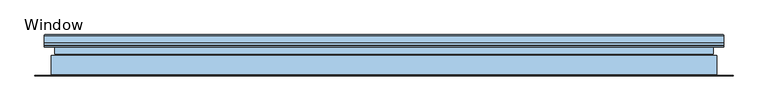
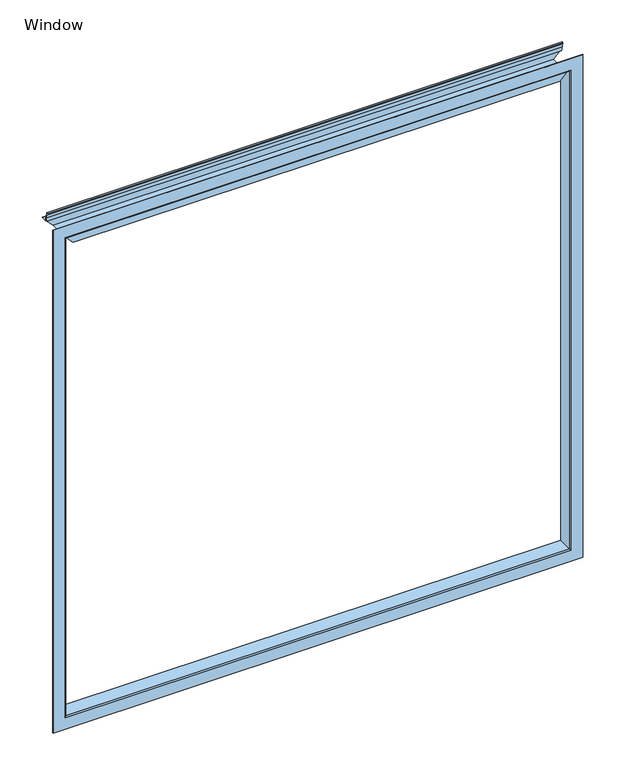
"""IFC4 building model written with IfcOpenShell, lengths in millimetres: window geometry, QO-H-QBISS_Window Module : Window."""

from ifc_helpers import new_model, si_unit, frame, origin, place, context, project, spatial, polyline, ellipse_curve, source, transform, mapped, element, save
from ifc_brep_helpers import plane_surface, cylinder_surface, revolved_surface, advanced_brep


def window_ffd93646(model_context):
    return source(origin(), model_context, "Body", "AdvancedBrep", [
        advanced_brep(
        [(986.7500002, -24.5, 1973.0), (986.7500002, -24.5, 1991.5), (986.7500002, -30.1, 1991.5), (986.7500002, -30.9804507, 2008.3), (986.7500002, -35.9804507, 2008.3), (986.7500002, -35.9804507, 2004.3), (986.7500002, -34.974409, 2004.3), (986.7500002, -34.5971452, 2006.8), (986.7500002, -32.5971452, 2006.8), (986.7500002, -32.0, 1989.7), (986.7500002, -26.3, 1989.7), (986.7500002, -26.3, 1973.0), (-986.7500002, -26.3, 1989.7), (-986.7500002, -32.0, 1989.7), (-986.7500002, -32.5971452, 2006.8), (-986.7500002, -34.5971452, 2006.8), (-986.7500002, -34.974409, 2004.3), (-986.7500002, -35.9804507, 2004.3), (-986.7500002, -35.9804507, 2008.3), (-986.7500002, -30.9804507, 2008.3), (-986.7500002, -30.1, 1991.5), (-986.7500002, -24.5, 1991.5), (-986.7500002, -24.5, 1973.0), (-986.7500002, -26.3, 1973.0), (-953.7023453, -75.0037405, 1939.9523452), (-953.7023453, -84.0037561, 1939.9523452), (953.7023453, -84.0037561, 1939.9523452), (953.7023453, -75.0037405, 1939.9523452), (-957.2518297, -84.0037561, 1943.5018295), (957.2518297, -84.0037561, 1943.5018295), (-957.2518297, -82.8037561, 1943.5018295), (957.2518297, -82.8037561, 1943.5018295), (-958.7518297, -82.8037561, 1945.0018295), (958.7518297, -82.8037561, 1945.0018295), (-958.7518297, -89.5037561, 1945.0018295), (958.7518297, -89.5037561, 1945.0018295), (-957.2518297, -89.5037561, 1943.5018295), (957.2518297, -89.5037561, 1943.5018295), (-957.2518297, -85.7037561, 1943.5018295), (957.2518297, -85.7037561, 1943.5018295), (-953.9518297, -85.7037561, 1940.2018295), (953.9518297, -85.7037561, 1940.2018295), (-953.9518297, -108.3037561, 1940.2018295), (953.9518297, -108.3037561, 1940.2018295), (-957.2518297, -108.3037561, 1943.5018295), (957.2518297, -108.3037561, 1943.5018295), (-957.2518297, -105.5037561, 1943.5018295), (957.2518297, -105.5037561, 1943.5018295), (-958.7518297, -105.5037561, 1945.0018295), (958.7518297, -105.5037561, 1945.0018295), (-958.7518297, -110.0037561, 1945.0018295), (958.7518297, -110.0037561, 1945.0018295), (-930.7518297, -110.0037561, 1917.0018295), (930.7518297, -110.0037561, 1917.0018295), (-930.7518297, -105.5037561, 1917.0018295), (930.7518297, -105.5037561, 1917.0018295), (-932.2518297, -105.5037561, 1918.5018295), (932.2518297, -105.5037561, 1918.5018295), (-932.2518297, -108.3037561, 1918.5018295), (932.2518297, -108.3037561, 1918.5018295), (-935.5518297, -108.3037561, 1921.8018295), (935.5518297, -108.3037561, 1921.8018295), (-935.5518297, -85.7037561, 1921.8018295), (935.5518297, -85.7037561, 1921.8018295), (-932.2518297, -85.7037561, 1918.5018295), (932.2518297, -85.7037561, 1918.5018295), (-932.2518297, -89.5037561, 1918.5018295), (932.2518297, -89.5037561, 1918.5018295), (-930.7518297, -89.5037561, 1917.0018295), (930.7518297, -89.5037561, 1917.0018295), (-930.7518297, -82.8037561, 1917.0018295), (930.7518297, -82.8037561, 1917.0018295), (-932.2518297, -82.8037561, 1918.5018295), (932.2518297, -82.8037561, 1918.5018295), (-932.2518297, -84.0037561, 1918.5018295), (932.2518297, -84.0037561, 1918.5018295), (-935.8013141, -84.0037561, 1922.0513139), (935.8013141, -84.0037561, 1922.0513139), (-935.8013141, -75.0037405, 1922.0513139), (935.8013141, -75.0037405, 1922.0513139), (-932.3013135, -75.0037405, 1918.5513133), (932.3013135, -75.0037405, 1918.5513133), (-932.3013135, -76.5037405, 1918.5513133), (932.3013135, -76.5037405, 1918.5513133), (-930.8013135, -76.5037405, 1917.0513133), (930.8013135, -76.5037405, 1917.0513133), (-930.8013135, -72.6037405, 1917.0513133), (930.8013135, -72.6037405, 1917.0513133), (-932.3013135, -72.6037405, 1918.5513133), (932.3013135, -72.6037405, 1918.5513133), (-932.3013135, -73.8037405, 1918.5513133), (932.3013135, -73.8037405, 1918.5513133), (-935.8013135, -73.8037405, 1922.0513133), (935.8013135, -73.8037405, 1922.0513133), (-935.8013135, -65.7037405, 1922.0513133), (935.8013135, -65.7037405, 1922.0513133), (-932.3013135, -65.7037405, 1918.5513133), (932.3013135, -65.7037405, 1918.5513133), (-932.3013135, -66.9037405, 1918.5513133), (932.3013135, -66.9037405, 1918.5513133), (-930.8013135, -66.9037405, 1917.0513133), (930.8013135, -66.9037405, 1917.0513133), (-930.8013135, -63.0037405, 1917.0513133), (930.8013135, -63.0037405, 1917.0513133), (-932.3013135, -63.0037405, 1918.5513133), (932.3013135, -63.0037405, 1918.5513133), (-932.3013135, -64.5037405, 1918.5513133), (932.3013135, -64.5037405, 1918.5513133), (-935.7500002, -64.5037405, 1922.0), (935.7500002, -64.5037405, 1922.0), (-935.7500002, -49.6, 1922.0), (935.7500002, -49.6, 1922.0), (-939.0500002, -49.6, 1925.3), (939.0500002, -49.6, 1925.3), (-939.0500002, -51.0, 1925.3), (939.0500002, -51.0, 1925.3), (-937.1500002, -51.0, 1923.4), (937.1500002, -51.0, 1923.4), (-937.1500002, -54.0, 1923.4), (937.1500002, -54.0, 1923.4), (-942.5500002, -54.0, 1928.8), (942.5500002, -54.0, 1928.8), (-942.5500002, -43.5, 1928.8), (942.5500002, -43.5, 1928.8), (-928.7500002, -43.5, 1915.0), (928.7500002, -43.5, 1915.0), (-928.7500002, -2.0, 1915.0), (928.7500002, -2.0, 1915.0), (-930.7500002, 0.0, 1917.0), (930.7500002, 0.0, 1917.0), (-984.7500002, 0.0, 1971.0), (984.7500002, 0.0, 1971.0), (-986.7500002, -2.0, 1973.0), (986.7500002, -2.0, 1973.0), (-984.7500002, -26.3, 1971.0), (984.7500002, -26.3, 1971.0), (-984.7500002, -22.4, 1971.0), (984.7500002, -22.4, 1971.0), (-956.5500002, -22.4, 1942.8), (956.5500002, -22.4, 1942.8), (-956.5500002, -55.4999986, 1942.8), (956.5500002, -55.4999986, 1942.8), (-953.7023461, -55.4999986, 1939.9523459), (953.7023461, -55.4999986, 1939.9523459), (-953.7023461, -64.5037405, 1939.9523459), (953.7023461, -64.5037405, 1939.9523459), (-957.2023459, -64.5037405, 1943.4523458), (957.2023459, -64.5037405, 1943.4523458), (-957.2023459, -63.0037405, 1943.4523458), (957.2023459, -63.0037405, 1943.4523458), (-958.7023459, -63.0037405, 1944.9523458), (958.7023459, -63.0037405, 1944.9523458), (-958.7023459, -66.9037405, 1944.9523458), (958.7023459, -66.9037405, 1944.9523458), (-957.2023459, -66.9037405, 1943.4523458), (957.2023459, -66.9037405, 1943.4523458), (-957.2023459, -65.7037405, 1943.4523458), (957.2023459, -65.7037405, 1943.4523458), (-953.7023459, -65.7037405, 1939.9523458), (953.7023459, -65.7037405, 1939.9523458), (-953.7023459, -73.8037405, 1939.9523458), (953.7023459, -73.8037405, 1939.9523458), (-957.2023459, -73.8037405, 1943.4523458), (957.2023459, -73.8037405, 1943.4523458), (-957.2023459, -72.6037405, 1943.4523458), (957.2023459, -72.6037405, 1943.4523458), (-958.7023459, -72.6037405, 1944.9523458), (958.7023459, -72.6037405, 1944.9523458), (-958.7023459, -76.5037405, 1944.9523458), (958.7023459, -76.5037405, 1944.9523458), (-957.2023459, -76.5037405, 1943.4523458), (957.2023459, -76.5037405, 1943.4523458), (-957.2023459, -75.0037405, 1943.4523458), (957.2023459, -75.0037405, 1943.4523458), (-956.5500002, -1.5, 1942.8), (-956.5500002, -20.7, 1942.8), (956.5500002, -20.7, 1942.8), (956.5500002, -1.5, 1942.8), (-985.2500002, -20.7, 1971.5), (985.2500002, -20.7, 1971.5), (-985.2500002, -1.5, 1971.5), (985.2500002, -1.5, 1971.5), (-944.5500002, -41.5, 1930.8), (-944.5500002, -54.0, 1930.8), (944.5500002, -54.0, 1930.8), (944.5500002, -41.5, 1930.8), (-954.8500002, -54.0, 1941.1), (954.8500002, -54.0, 1941.1), (-954.8500002, -1.5, 1941.1), (954.8500002, -1.5, 1941.1), (-930.4500002, -1.5, 1916.7), (930.4500002, -1.5, 1916.7), (-930.4500002, -41.5, 1916.7), (930.4500002, -41.5, 1916.7), (-937.4518297, -108.3037561, 1923.7018295), (-952.0518297, -108.3037561, 1938.3018295), (952.0518297, -108.3037561, 1938.3018295), (937.4518297, -108.3037561, 1923.7018295), (-952.0518297, -85.7037561, 1938.3018295), (952.0518297, -85.7037561, 1938.3018295), (-937.4518297, -85.7037561, 1923.7018295), (937.4518297, -85.7037561, 1923.7018295)],
        [
            (0, 1),
            (1, 2),
            (2, 3),
            (3, 4),
            (4, 5),
            (5, 6),
            (6, 7),
            (7, 8),
            (8, 9),
            (9, 10),
            (10, 11),
            (11, 0),
            (12, 13),
            (13, 14),
            (14, 15),
            (15, 16),
            (16, 17),
            (17, 18),
            (18, 19),
            (19, 20),
            (20, 21),
            (21, 22),
            (22, 23),
            (23, 12),
            (24, 25),
            (25, 26),
            (26, 27),
            (27, 24),
            (25, 28),
            (28, 29),
            (29, 26),
            (28, 30),
            (30, 31),
            (31, 29),
            (30, 32),
            (32, 33),
            (33, 31),
            (32, 34),
            (34, 35),
            (35, 33),
            (34, 36),
            (36, 37),
            (37, 35),
            (36, 38),
            (38, 39),
            (39, 37),
            (38, 40),
            (40, 41),
            (41, 39),
            (40, 42),
            (42, 43),
            (43, 41),
            (42, 44),
            (44, 45),
            (45, 43),
            (44, 46),
            (46, 47),
            (47, 45),
            (46, 48),
            (48, 49),
            (49, 47),
            (48, 50),
            (50, 51),
            (51, 49),
            (50, 52),
            (52, 53),
            (53, 51),
            (52, 54),
            (54, 55),
            (55, 53),
            (54, 56),
            (56, 57),
            (57, 55),
            (56, 58),
            (58, 59),
            (59, 57),
            (58, 60),
            (60, 61),
            (61, 59),
            (60, 62),
            (62, 63),
            (63, 61),
            (62, 64),
            (64, 65),
            (65, 63),
            (64, 66),
            (66, 67),
            (67, 65),
            (66, 68),
            (68, 69),
            (69, 67),
            (68, 70),
            (70, 71),
            (71, 69),
            (70, 72),
            (72, 73),
            (73, 71),
            (72, 74),
            (74, 75),
            (75, 73),
            (74, 76),
            (76, 77),
            (77, 75),
            (76, 78),
            (78, 79),
            (79, 77),
            (78, 80),
            (80, 81),
            (81, 79),
            (80, 82),
            (82, 83),
            (83, 81),
            (82, 84),
            (84, 85),
            (85, 83),
            (84, 86),
            (86, 87),
            (87, 85),
            (86, 88),
            (88, 89),
            (89, 87),
            (88, 90),
            (90, 91),
            (91, 89),
            (90, 92),
            (92, 93),
            (93, 91),
            (92, 94),
            (94, 95),
            (95, 93),
            (94, 96),
            (96, 97),
            (97, 95),
            (96, 98),
            (98, 99),
            (99, 97),
            (98, 100),
            (100, 101),
            (101, 99),
            (100, 102),
            (102, 103),
            (103, 101),
            (102, 104),
            (104, 105),
            (105, 103),
            (104, 106),
            (106, 107),
            (107, 105),
            (106, 108),
            (108, 109),
            (109, 107),
            (108, 110),
            (110, 111),
            (111, 109),
            (110, 112),
            (112, 113),
            (113, 111),
            (112, 114),
            (114, 115),
            (115, 113),
            (114, 116),
            (116, 117),
            (117, 115),
            (116, 118),
            (118, 119),
            (119, 117),
            (118, 120),
            (120, 121),
            (121, 119),
            (120, 122),
            (122, 123),
            (123, 121),
            (122, 124),
            (124, 125),
            (125, 123),
            (124, 126),
            (126, 127),
            (127, 125),
            (126, 128, ellipse_curve(frame((-930.7500002, -2.0, 1917.0), z_axis=(0.7071067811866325, 0.0, 0.7071067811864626), x_axis=(0.7071067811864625, 0.0, -0.7071067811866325)), 2.8284271, 2.0)),
            (128, 129),
            (129, 127, ellipse_curve(frame((930.7500002, -2.0, 1917.0), z_axis=(-0.7071067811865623, 0.0, 0.7071067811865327), x_axis=(0.7071067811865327, 0.0, 0.7071067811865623)), 2.8284271, 2.0)),
            (128, 130),
            (130, 131),
            (131, 129),
            (132, 133),
            (133, 131, ellipse_curve(frame((984.7500002, -2.0, 1971.0), z_axis=(-0.7071067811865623, 0.0, 0.7071067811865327), x_axis=(0.7071067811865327, 0.0, 0.7071067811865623)), 2.8284271, 2.0)),
            (130, 132, ellipse_curve(frame((-984.7500002, -2.0, 1971.0), z_axis=(0.7071067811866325, 0.0, 0.7071067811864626), x_axis=(0.7071067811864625, 0.0, -0.7071067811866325)), 2.8284271, 2.0)),
            (132, 22),
            (22, 0),
            (0, 133),
            (21, 1),
            (20, 2),
            (19, 3),
            (18, 4),
            (17, 5),
            (16, 6),
            (15, 7),
            (14, 8),
            (13, 9),
            (12, 10),
            (23, 134),
            (134, 135),
            (135, 11),
            (134, 136),
            (136, 137),
            (137, 135),
            (136, 138),
            (138, 139),
            (139, 137),
            (138, 140),
            (140, 141),
            (141, 139),
            (140, 142),
            (142, 143),
            (143, 141),
            (142, 144),
            (144, 145),
            (145, 143),
            (144, 146),
            (146, 147),
            (147, 145),
            (146, 148),
            (148, 149),
            (149, 147),
            (148, 150),
            (150, 151),
            (151, 149),
            (150, 152),
            (152, 153),
            (153, 151),
            (152, 154),
            (154, 155),
            (155, 153),
            (154, 156),
            (156, 157),
            (157, 155),
            (156, 158),
            (158, 159),
            (159, 157),
            (158, 160),
            (160, 161),
            (161, 159),
            (160, 162),
            (162, 163),
            (163, 161),
            (162, 164),
            (164, 165),
            (165, 163),
            (164, 166),
            (166, 167),
            (167, 165),
            (166, 168),
            (168, 169),
            (169, 167),
            (168, 170),
            (170, 171),
            (171, 169),
            (170, 172),
            (172, 173),
            (173, 171),
            (172, 24),
            (27, 173),
            (174, 175),
            (175, 176),
            (176, 177),
            (177, 174),
            (175, 178),
            (178, 179),
            (179, 176),
            (178, 180),
            (180, 181),
            (181, 179),
            (180, 174),
            (177, 181),
            (182, 183),
            (183, 184),
            (184, 185),
            (185, 182),
            (183, 186),
            (186, 187),
            (187, 184),
            (186, 188),
            (188, 189),
            (189, 187),
            (188, 190),
            (190, 191),
            (191, 189),
            (190, 192),
            (192, 193),
            (193, 191),
            (192, 182),
            (185, 193),
            (194, 195),
            (195, 196),
            (196, 197),
            (197, 194),
            (195, 198),
            (198, 199),
            (199, 196),
            (198, 200),
            (200, 201),
            (201, 199),
            (200, 194),
            (197, 201),
        ],
        [
            plane_surface(frame((986.7500002, 0.0, 2000.0), z_axis=(1.0, 0.0, 0.0), x_axis=(0.0, -1.0, 0.0))),
            plane_surface(frame((-986.7500002, 0.0, 2000.0), z_axis=(-1.0, 0.0, 0.0), x_axis=(0.0, -1.0, 0.0))),
            plane_surface(frame((986.7500002, -75.0037405, 1939.9523452), z_axis=(0.0, 0.0, 1.0), x_axis=(-1.0, 0.0, 0.0))),
            plane_surface(frame((986.7500002, -84.0037561, 1939.9523452), z_axis=(0.0, 1.0, 0.0), x_axis=(-1.0, 0.0, 0.0))),
            plane_surface(frame((986.7500002, -84.0037561, 1943.5018295), z_axis=(0.0, 0.0, -1.0), x_axis=(-1.0, 0.0, 0.0))),
            plane_surface(frame((986.7500002, -82.8037561, 1943.5018295), z_axis=(0.0, 1.0, 0.0), x_axis=(-1.0, 0.0, 0.0))),
            plane_surface(frame((986.7500002, -82.8037561, 1945.0018295), z_axis=(0.0, 0.0, 1.0), x_axis=(-1.0, 0.0, 0.0))),
            plane_surface(frame((986.7500002, -89.5037561, 1945.0018295), z_axis=(0.0, -1.0, 0.0), x_axis=(-1.0, 0.0, 0.0))),
            plane_surface(frame((986.7500002, -89.5037561, 1943.5018295), z_axis=(0.0, 0.0, -1.0), x_axis=(-1.0, 0.0, 0.0))),
            plane_surface(frame((986.7500002, -85.7037561, 1943.5018295), z_axis=(0.0, -1.0, 0.0), x_axis=(-1.0, 0.0, 0.0))),
            plane_surface(frame((986.7500002, -85.7037561, 1940.2018295), z_axis=(0.0, 0.0, 1.0), x_axis=(-1.0, 0.0, 0.0))),
            plane_surface(frame((986.7500002, -108.3037561, 1940.2018295), z_axis=(0.0, 1.0, 0.0), x_axis=(-1.0, 0.0, 0.0))),
            plane_surface(frame((986.7500002, -108.3037561, 1943.5018295), z_axis=(0.0, 0.0, -1.0), x_axis=(-1.0, 0.0, 0.0))),
            plane_surface(frame((986.7500002, -105.5037561, 1943.5018295), z_axis=(0.0, 1.0, 0.0), x_axis=(-1.0, 0.0, 0.0))),
            plane_surface(frame((986.7500002, -105.5037561, 1945.0018295), z_axis=(0.0, 0.0, 1.0), x_axis=(-1.0, 0.0, 0.0))),
            plane_surface(frame((986.7500002, -110.0037561, 1945.0018295), z_axis=(0.0, -1.0, 0.0), x_axis=(-1.0, 0.0, 0.0))),
            plane_surface(frame((986.7500002, -110.0037561, 1917.0018295), z_axis=(0.0, 0.0, -1.0), x_axis=(-1.0, 0.0, 0.0))),
            plane_surface(frame((986.7500002, -105.5037561, 1917.0018295), z_axis=(0.0, 1.0, 0.0), x_axis=(-1.0, 0.0, 0.0))),
            plane_surface(frame((986.7500002, -105.5037561, 1918.5018295), z_axis=(0.0, 0.0, 1.0), x_axis=(-1.0, 0.0, 0.0))),
            plane_surface(frame((986.7500002, -108.3037561, 1918.5018295), z_axis=(0.0, 1.0, 0.0), x_axis=(-1.0, 0.0, 0.0))),
            plane_surface(frame((986.7500002, -108.3037561, 1921.8018295), z_axis=(0.0, 0.0, -1.0), x_axis=(-1.0, 0.0, 0.0))),
            plane_surface(frame((986.7500002, -85.7037561, 1921.8018295), z_axis=(0.0, -1.0, 0.0), x_axis=(-1.0, 0.0, 0.0))),
            plane_surface(frame((986.7500002, -85.7037561, 1918.5018295), z_axis=(0.0, 0.0, 1.0), x_axis=(-1.0, 0.0, 0.0))),
            plane_surface(frame((986.7500002, -89.5037561, 1918.5018295), z_axis=(0.0, -1.0, 0.0), x_axis=(-1.0, 0.0, 0.0))),
            plane_surface(frame((986.7500002, -89.5037561, 1917.0018295), z_axis=(0.0, 0.0, -1.0), x_axis=(-1.0, 0.0, 0.0))),
            plane_surface(frame((986.7500002, -82.8037561, 1917.0018295), z_axis=(0.0, 1.0, 0.0), x_axis=(-1.0, 0.0, 0.0))),
            plane_surface(frame((986.7500002, -82.8037561, 1918.5018295), z_axis=(0.0, 0.0, 1.0), x_axis=(-1.0, 0.0, 0.0))),
            plane_surface(frame((986.7500002, -84.0037561, 1918.5018295), z_axis=(0.0, 1.0, 0.0), x_axis=(-1.0, 0.0, 0.0))),
            plane_surface(frame((986.7500002, -84.0037561, 1922.0513139), z_axis=(0.0, 0.0, -1.0), x_axis=(-1.0, 0.0, 0.0))),
            plane_surface(frame((986.7500002, -75.0037405, 1922.0513139), z_axis=(0.0, -1.0, 0.0), x_axis=(-1.0, 0.0, 0.0))),
            plane_surface(frame((986.7500002, -75.0037405, 1918.5513133), z_axis=(0.0, 0.0, 1.0), x_axis=(-1.0, 0.0, 0.0))),
            plane_surface(frame((986.7500002, -76.5037405, 1918.5513133), z_axis=(0.0, -1.0, 0.0), x_axis=(-1.0, 0.0, 0.0))),
            plane_surface(frame((986.7500002, -76.5037405, 1917.0513133), z_axis=(0.0, 0.0, -1.0), x_axis=(-1.0, 0.0, 0.0))),
            plane_surface(frame((986.7500002, -72.6037405, 1917.0513133), z_axis=(0.0, 1.0, 0.0), x_axis=(-1.0, 0.0, 0.0))),
            plane_surface(frame((986.7500002, -72.6037405, 1918.5513133), z_axis=(0.0, 0.0, 1.0), x_axis=(-1.0, 0.0, 0.0))),
            plane_surface(frame((986.7500002, -73.8037405, 1918.5513133), z_axis=(0.0, 1.0, 0.0), x_axis=(-1.0, 0.0, 0.0))),
            plane_surface(frame((986.7500002, -73.8037405, 1922.0513133), z_axis=(0.0, 0.0, -1.0), x_axis=(-1.0, 0.0, 0.0))),
            plane_surface(frame((986.7500002, -65.7037405, 1922.0513133), z_axis=(0.0, -1.0, 0.0), x_axis=(-1.0, 0.0, 0.0))),
            plane_surface(frame((986.7500002, -65.7037405, 1918.5513133), z_axis=(0.0, 0.0, 1.0), x_axis=(-1.0, 0.0, 0.0))),
            plane_surface(frame((986.7500002, -66.9037405, 1918.5513133), z_axis=(0.0, -1.0, 0.0), x_axis=(-1.0, 0.0, 0.0))),
            plane_surface(frame((986.7500002, -66.9037405, 1917.0513133), z_axis=(0.0, 0.0, -1.0), x_axis=(-1.0, 0.0, 0.0))),
            plane_surface(frame((986.7500002, -63.0037405, 1917.0513133), z_axis=(0.0, 1.0, 0.0), x_axis=(-1.0, 0.0, 0.0))),
            plane_surface(frame((986.7500002, -63.0037405, 1918.5513133), z_axis=(0.0, 0.0, 1.0), x_axis=(-1.0, 0.0, 0.0))),
            plane_surface(frame((986.7500002, -64.5037405, 1918.5513133), z_axis=(0.0, 1.0, 0.0), x_axis=(-1.0, 0.0, 0.0))),
            plane_surface(frame((986.7500002, -64.5037405, 1922.0), z_axis=(0.0, 0.0, -1.0), x_axis=(-1.0, 0.0, 0.0))),
            plane_surface(frame((986.7500002, -49.6, 1922.0), z_axis=(0.0, 1.0, 0.0), x_axis=(-1.0, 0.0, 0.0))),
            plane_surface(frame((986.7500002, -49.6, 1925.3), z_axis=(0.0, 0.0, 1.0), x_axis=(-1.0, 0.0, 0.0))),
            plane_surface(frame((986.7500002, -51.0, 1925.3), z_axis=(0.0, -1.0, 0.0), x_axis=(-1.0, 0.0, 0.0))),
            plane_surface(frame((986.7500002, -51.0, 1923.4), z_axis=(0.0, 0.0, 1.0), x_axis=(-1.0, 0.0, 0.0))),
            plane_surface(frame((986.7500002, -54.0, 1923.4), z_axis=(0.0, 1.0, 0.0), x_axis=(-1.0, 0.0, 0.0))),
            plane_surface(frame((986.7500002, -54.0, 1928.8), z_axis=(0.0, 0.0, -1.0), x_axis=(-1.0, 0.0, 0.0))),
            plane_surface(frame((986.7500002, -43.5, 1928.8), z_axis=(0.0, -1.0, 0.0), x_axis=(-1.0, 0.0, 0.0))),
            plane_surface(frame((986.7500002, -43.5, 1915.0), z_axis=(0.0, 0.0, -1.0), x_axis=(-1.0, 0.0, 0.0))),
            cylinder_surface(frame((986.7500002, -2.0, 1917.0), z_axis=(1.0, 0.0, 0.0), x_axis=(0.0, -1.0, 0.0)), 2.0),
            plane_surface(frame((986.7500002, 0.0, 1917.0), z_axis=(0.0, 1.0, 0.0), x_axis=(-1.0, 0.0, 0.0))),
            cylinder_surface(frame((986.7500002, -2.0, 1971.0), z_axis=(1.0, 0.0, 0.0), x_axis=(0.0, -1.0, 0.0)), 2.0),
            plane_surface(frame((986.7500002, -2.0, 1973.0), z_axis=(0.0, 0.0, 1.0), x_axis=(-1.0, 0.0, 0.0))),
            plane_surface(frame((986.7500002, -24.5, 1973.0), z_axis=(0.0, 1.0, 0.0), x_axis=(-1.0, 0.0, 0.0))),
            plane_surface(frame((986.7500002, -24.5, 1991.5), z_axis=(0.0, 0.0, 1.0), x_axis=(-1.0, 0.0, 0.0))),
            plane_surface(frame((986.7500002, -30.1, 1991.5), z_axis=(0.0, 0.9986295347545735, 0.05233595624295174), x_axis=(-1.0, 0.0, 0.0))),
            plane_surface(frame((986.7500002, -30.9804507, 2008.3), z_axis=(0.0, 0.0, 1.0), x_axis=(-1.0, 0.0, 0.0))),
            plane_surface(frame((986.7500002, -35.9804507, 2008.3), z_axis=(0.0, -1.0, 0.0), x_axis=(-1.0, 0.0, 0.0))),
            plane_surface(frame((986.7500002, -35.9804507, 2004.3), z_axis=(0.0, 0.0, -1.0), x_axis=(-1.0, 0.0, 0.0))),
            plane_surface(frame((986.7500002, -34.974409, 2004.3), z_axis=(0.0, 0.9888046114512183, -0.14921608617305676), x_axis=(-1.0, 0.0, 0.0))),
            plane_surface(frame((986.7500002, -34.5971452, 2006.8), z_axis=(0.0, 0.0, -1.0), x_axis=(-1.0, 0.0, 0.0))),
            plane_surface(frame((986.7500002, -32.5971452, 2006.8), z_axis=(0.0, -0.9993908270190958, -0.0348994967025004), x_axis=(-1.0, 0.0, 0.0))),
            plane_surface(frame((986.7500002, -32.0, 1989.7), z_axis=(0.0, 0.0, -1.0), x_axis=(-1.0, 0.0, 0.0))),
            plane_surface(frame((986.7500002, -26.3, 1989.7), z_axis=(0.0, -1.0, 0.0), x_axis=(-1.0, 0.0, 0.0))),
            plane_surface(frame((986.7500002, -26.3, 1971.0), z_axis=(0.0, 0.0, -1.0), x_axis=(-1.0, 0.0, 0.0))),
            plane_surface(frame((986.7500002, -22.4, 1971.0), z_axis=(0.0, -1.0, 0.0), x_axis=(-1.0, 0.0, 0.0))),
            plane_surface(frame((986.7500002, -22.4, 1942.8), z_axis=(0.0, 0.0, 1.0), x_axis=(-1.0, 0.0, 0.0))),
            plane_surface(frame((986.7500002, -55.4999986, 1942.8), z_axis=(0.0, -1.0, 0.0), x_axis=(-1.0, 0.0, 0.0))),
            plane_surface(frame((986.7500002, -55.4999986, 1939.9523459), z_axis=(0.0, 0.0, 1.0), x_axis=(-1.0, 0.0, 0.0))),
            plane_surface(frame((986.7500002, -64.5037405, 1939.9523459), z_axis=(0.0, 1.0, 0.0), x_axis=(-1.0, 0.0, 0.0))),
            plane_surface(frame((986.7500002, -64.5037405, 1943.4523458), z_axis=(0.0, 0.0, -1.0), x_axis=(-1.0, 0.0, 0.0))),
            plane_surface(frame((986.7500002, -63.0037405, 1943.4523458), z_axis=(0.0, 1.0, 0.0), x_axis=(-1.0, 0.0, 0.0))),
            plane_surface(frame((986.7500002, -63.0037405, 1944.9523458), z_axis=(0.0, 0.0, 1.0), x_axis=(-1.0, 0.0, 0.0))),
            plane_surface(frame((986.7500002, -66.9037405, 1944.9523458), z_axis=(0.0, -1.0, 0.0), x_axis=(-1.0, 0.0, 0.0))),
            plane_surface(frame((986.7500002, -66.9037405, 1943.4523458), z_axis=(0.0, 0.0, -1.0), x_axis=(-1.0, 0.0, 0.0))),
            plane_surface(frame((986.7500002, -65.7037405, 1943.4523458), z_axis=(0.0, -1.0, 0.0), x_axis=(-1.0, 0.0, 0.0))),
            plane_surface(frame((986.7500002, -65.7037405, 1939.9523458), z_axis=(0.0, 0.0, 1.0), x_axis=(-1.0, 0.0, 0.0))),
            plane_surface(frame((986.7500002, -73.8037405, 1939.9523458), z_axis=(0.0, 1.0, 0.0), x_axis=(-1.0, 0.0, 0.0))),
            plane_surface(frame((986.7500002, -73.8037405, 1943.4523458), z_axis=(0.0, 0.0, -1.0), x_axis=(-1.0, 0.0, 0.0))),
            plane_surface(frame((986.7500002, -72.6037405, 1943.4523458), z_axis=(0.0, 1.0, 0.0), x_axis=(-1.0, 0.0, 0.0))),
            plane_surface(frame((986.7500002, -72.6037405, 1944.9523458), z_axis=(0.0, 0.0, 1.0), x_axis=(-1.0, 0.0, 0.0))),
            plane_surface(frame((986.7500002, -76.5037405, 1944.9523458), z_axis=(0.0, -1.0, 0.0), x_axis=(-1.0, 0.0, 0.0))),
            plane_surface(frame((986.7500002, -76.5037405, 1943.4523458), z_axis=(0.0, 0.0, -1.0), x_axis=(-1.0, 0.0, 0.0))),
            plane_surface(frame((986.7500002, -75.0037405, 1943.4523458), z_axis=(0.0, -1.0, 0.0), x_axis=(-1.0, 0.0, 0.0))),
            plane_surface(frame((986.7500002, -1.5, 1942.8), z_axis=(0.0, 0.0, 1.0), x_axis=(-1.0, 0.0, 0.0))),
            plane_surface(frame((986.7500002, -20.7, 1942.8), z_axis=(0.0, 1.0, 0.0), x_axis=(-1.0, 0.0, 0.0))),
            plane_surface(frame((986.7500002, -20.7, 1971.5), z_axis=(0.0, 0.0, -1.0), x_axis=(-1.0, 0.0, 0.0))),
            plane_surface(frame((986.7500002, -1.5, 1971.5), z_axis=(0.0, -1.0, 0.0), x_axis=(-1.0, 0.0, 0.0))),
            plane_surface(frame((986.7500002, -41.5, 1930.8), z_axis=(0.0, 0.0, 1.0), x_axis=(-1.0, 0.0, 0.0))),
            plane_surface(frame((986.7500002, -54.0, 1930.8), z_axis=(0.0, 1.0, 0.0), x_axis=(-1.0, 0.0, 0.0))),
            plane_surface(frame((986.7500002, -54.0, 1941.1), z_axis=(0.0, 0.0, -1.0), x_axis=(-1.0, 0.0, 0.0))),
            plane_surface(frame((986.7500002, -1.5, 1941.1), z_axis=(0.0, -1.0, 0.0), x_axis=(-1.0, 0.0, 0.0))),
            plane_surface(frame((986.7500002, -1.5, 1916.7), z_axis=(0.0, 0.0, 1.0), x_axis=(-1.0, 0.0, 0.0))),
            plane_surface(frame((986.7500002, -41.5, 1916.7), z_axis=(0.0, 1.0, 0.0), x_axis=(-1.0, 0.0, 0.0))),
            plane_surface(frame((986.7500002, -108.3037561, 1923.7018295), z_axis=(0.0, 1.0, 0.0), x_axis=(-1.0, 0.0, 0.0))),
            plane_surface(frame((986.7500002, -108.3037561, 1938.3018295), z_axis=(0.0, 0.0, -1.0), x_axis=(-1.0, 0.0, 0.0))),
            plane_surface(frame((986.7500002, -85.7037561, 1938.3018295), z_axis=(0.0, -1.0, 0.0), x_axis=(-1.0, 0.0, 0.0))),
            plane_surface(frame((986.7500002, -85.7037561, 1923.7018295), z_axis=(0.0, 0.0, 1.0), x_axis=(-1.0, 0.0, 0.0))),
            plane_surface(frame((-928.7500002, -120.0, 1915.0), z_axis=(-0.7071067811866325, 0.0, -0.7071067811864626), x_axis=(0.0, 1.0, 0.0))),
            plane_surface(frame((986.7794846, -180.0, 1973.0294844), z_axis=(0.7071067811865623, 0.0, -0.7071067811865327), x_axis=(0.0, 1.0, 0.0))),
        ],
        [
            (0, [[1, 2, 3, 4, 5, 6, 7, 8, 9, 10, 11, 12]]),
            (1, [[13, 14, 15, 16, 17, 18, 19, 20, 21, 22, 23, 24]]),
            (2, [[25, 26, 27, 28]]),
            (3, [[29, 30, 31, -26]]),
            (4, [[32, 33, 34, -30]]),
            (5, [[35, 36, 37, -33]]),
            (6, [[38, 39, 40, -36]]),
            (7, [[41, 42, 43, -39]]),
            (8, [[44, 45, 46, -42]]),
            (9, [[47, 48, 49, -45]]),
            (10, [[50, 51, 52, -48]]),
            (11, [[53, 54, 55, -51]]),
            (12, [[56, 57, 58, -54]]),
            (13, [[59, 60, 61, -57]]),
            (14, [[62, 63, 64, -60]]),
            (15, [[65, 66, 67, -63]]),
            (16, [[68, 69, 70, -66]]),
            (17, [[71, 72, 73, -69]]),
            (18, [[74, 75, 76, -72]]),
            (19, [[77, 78, 79, -75]]),
            (20, [[80, 81, 82, -78]]),
            (21, [[83, 84, 85, -81]]),
            (22, [[86, 87, 88, -84]]),
            (23, [[89, 90, 91, -87]]),
            (24, [[92, 93, 94, -90]]),
            (25, [[95, 96, 97, -93]]),
            (26, [[98, 99, 100, -96]]),
            (27, [[101, 102, 103, -99]]),
            (28, [[104, 105, 106, -102]]),
            (29, [[107, 108, 109, -105]]),
            (30, [[110, 111, 112, -108]]),
            (31, [[113, 114, 115, -111]]),
            (32, [[116, 117, 118, -114]]),
            (33, [[119, 120, 121, -117]]),
            (34, [[122, 123, 124, -120]]),
            (35, [[125, 126, 127, -123]]),
            (36, [[128, 129, 130, -126]]),
            (37, [[131, 132, 133, -129]]),
            (38, [[134, 135, 136, -132]]),
            (39, [[137, 138, 139, -135]]),
            (40, [[140, 141, 142, -138]]),
            (41, [[143, 144, 145, -141]]),
            (42, [[146, 147, 148, -144]]),
            (43, [[149, 150, 151, -147]]),
            (44, [[152, 153, 154, -150]]),
            (45, [[155, 156, 157, -153]]),
            (46, [[158, 159, 160, -156]]),
            (47, [[161, 162, 163, -159]]),
            (48, [[164, 165, 166, -162]]),
            (49, [[167, 168, 169, -165]]),
            (50, [[170, 171, 172, -168]]),
            (51, [[173, 174, 175, -171]]),
            (52, [[176, 177, 178, -174]]),
            (53, [[179, 180, 181, -177]]),
            (54, [[182, 183, 184, -180]]),
            (55, [[185, 186, -183, 187]]),
            (56, [[-185, 188, 189, 190]]),
            (57, [[-1, -189, -22, 191]]),
            (58, [[-2, -191, -21, 192]]),
            (59, [[-3, -192, -20, 193]]),
            (60, [[-4, -193, -19, 194]]),
            (61, [[-5, -194, -18, 195]]),
            (62, [[-6, -195, -17, 196]]),
            (63, [[-7, -196, -16, 197]]),
            (64, [[-8, -197, -15, 198]]),
            (65, [[-9, -198, -14, 199]]),
            (66, [[-10, -199, -13, 200]]),
            (67, [[-200, -24, 201, 202, 203, -11]]),
            (68, [[204, 205, 206, -202]]),
            (69, [[207, 208, 209, -205]]),
            (70, [[210, 211, 212, -208]]),
            (71, [[213, 214, 215, -211]]),
            (72, [[216, 217, 218, -214]]),
            (73, [[219, 220, 221, -217]]),
            (74, [[222, 223, 224, -220]]),
            (75, [[225, 226, 227, -223]]),
            (76, [[228, 229, 230, -226]]),
            (77, [[231, 232, 233, -229]]),
            (78, [[234, 235, 236, -232]]),
            (79, [[237, 238, 239, -235]]),
            (80, [[240, 241, 242, -238]]),
            (81, [[243, 244, 245, -241]]),
            (82, [[246, 247, 248, -244]]),
            (83, [[249, 250, 251, -247]]),
            (84, [[252, 253, 254, -250]]),
            (85, [[255, 256, 257, -253]]),
            (86, [[258, 259, 260, -256]]),
            (87, [[261, -28, 262, -259]]),
            (88, [[263, 264, 265, 266]]),
            (89, [[267, 268, 269, -264]]),
            (90, [[270, 271, 272, -268]]),
            (91, [[273, -266, 274, -271]]),
            (92, [[275, 276, 277, 278]]),
            (93, [[279, 280, 281, -276]]),
            (94, [[282, 283, 284, -280]]),
            (95, [[285, 286, 287, -283]]),
            (96, [[288, 289, 290, -286]]),
            (97, [[291, -278, 292, -289]]),
            (98, [[293, 294, 295, 296]]),
            (99, [[297, 298, 299, -294]]),
            (100, [[300, 301, 302, -298]]),
            (101, [[303, -296, 304, -301]]),
            (102, [[-23, -188, -187, -182, -179, -176, -173, -170, -167, -164, -161, -158, -155, -152, -149, -146, -143, -140, -137, -134, -131, -128, -125, -122, -119, -116, -113, -110, -107, -104, -101, -98, -95, -92, -89, -86, -83, -80, -77, -74, -71, -68, -65, -62, -59, -56, -53, -50, -47, -44, -41, -38, -35, -32, -29, -25, -261, -258, -255, -252, -249, -246, -243, -240, -237, -234, -231, -228, -225, -222, -219, -216, -213, -210, -207, -204, -201], [-263, -273, -270, -267], [-275, -291, -288, -285, -282, -279], [-293, -303, -300, -297]]),
            (103, [[-12, -203, -206, -209, -212, -215, -218, -221, -224, -227, -230, -233, -236, -239, -242, -245, -248, -251, -254, -257, -260, -262, -27, -31, -34, -37, -40, -43, -46, -49, -52, -55, -58, -61, -64, -67, -70, -73, -76, -79, -82, -85, -88, -91, -94, -97, -100, -103, -106, -109, -112, -115, -118, -121, -124, -127, -130, -133, -136, -139, -142, -145, -148, -151, -154, -157, -160, -163, -166, -169, -172, -175, -178, -181, -184, -186, -190], [-265, -269, -272, -274], [-277, -281, -284, -287, -290, -292], [-295, -299, -302, -304]]),
        ],
    ),
        advanced_brep(
        [(-964.2500002, -60.0, 1951.0), (-964.2500002, -116.0, 1951.0), (-964.2500002, -116.0, 18.0), (-964.2500002, -60.0, 18.0), (-968.2500002, -120.0, 1955.0), (-968.2500002, -120.0, 14.0), (964.2500002, -116.0, 18.0), (964.2500002, -60.0, 18.0), (-966.2500002, -60.0, 1953.0), (966.2500002, -60.0, 1953.0), (966.2500002, -60.0, 16.0), (-966.2500002, -60.0, 16.0), (964.2500002, -60.0, 1951.0), (-966.2500002, -116.0, 1953.0), (-966.2500002, -116.0, 16.0), (966.2500002, -116.0, 16.0), (-968.2500002, -118.0, 1955.0), (-968.2500002, -118.0, 14.0), (968.2500002, -118.0, 14.0), (-1014.2500002, -118.0, 2001.0), (1014.2500002, -118.0, 2001.0), (1014.2500002, -118.0, -32.0), (-1014.2500002, -118.0, -32.0), (968.2500002, -118.0, 1955.0), (-1014.2500002, -120.0, 2001.0), (-1014.2500002, -120.0, -32.0), (1014.2500002, -120.0, -32.0), (1014.2500002, -120.0, 2001.0), (968.2500002, -120.0, 1955.0), (968.2500002, -120.0, 14.0), (964.2500002, -116.0, 1951.0), (966.2500002, -116.0, 1953.0)],
        [
            (0, 1),
            (1, 2),
            (2, 3),
            (3, 0),
            (1, 4, ellipse_curve(frame((-968.2500002, -116.0, 1955.0), z_axis=(-0.7071067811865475, 0.0, -0.7071067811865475), x_axis=(-0.7071067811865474, 0.0, 0.7071067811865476)), 5.6568542, 4.0)),
            (4, 5),
            (5, 2, ellipse_curve(frame((-968.2500002, -116.0, 14.0), z_axis=(-0.7071067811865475, 0.0, 0.7071067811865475), x_axis=(0.7071067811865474, 0.0, 0.7071067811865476)), 5.6568542, 4.0)),
            (2, 6),
            (6, 7),
            (7, 3),
            (8, 9),
            (9, 10),
            (10, 11),
            (11, 8),
            (7, 12),
            (12, 0),
            (13, 8),
            (11, 14),
            (14, 13),
            (10, 15),
            (15, 14),
            (16, 13, ellipse_curve(frame((-968.2500002, -116.0, 1955.0), z_axis=(0.7071067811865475, 0.0, 0.7071067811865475), x_axis=(0.7071067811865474, 0.0, -0.7071067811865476)), 2.8284271, 2.0)),
            (14, 17, ellipse_curve(frame((-968.2500002, -116.0, 14.0), z_axis=(0.7071067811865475, 0.0, -0.7071067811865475), x_axis=(-0.7071067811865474, 0.0, -0.7071067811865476)), 2.8284271, 2.0)),
            (17, 16),
            (15, 18, ellipse_curve(frame((968.2500002, -116.0, 14.0), z_axis=(0.7071067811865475, 0.0, 0.7071067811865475), x_axis=(0.7071067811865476, 0.0, -0.7071067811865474)), 2.8284271, 2.0)),
            (18, 17),
            (19, 20),
            (20, 21),
            (21, 22),
            (22, 19),
            (18, 23),
            (23, 16),
            (24, 19),
            (22, 25),
            (25, 24),
            (21, 26),
            (26, 25),
            (26, 27),
            (27, 24),
            (4, 28),
            (28, 29),
            (29, 5),
            (29, 6, ellipse_curve(frame((968.2500002, -116.0, 14.0), z_axis=(-0.7071067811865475, 0.0, -0.7071067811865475), x_axis=(-0.7071067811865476, 0.0, 0.7071067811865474)), 5.6568542, 4.0)),
            (6, 30),
            (30, 12),
            (9, 31),
            (31, 15),
            (31, 23, ellipse_curve(frame((968.2500002, -116.0, 1955.0), z_axis=(-0.7071067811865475, 0.0, 0.7071067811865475), x_axis=(0.7071067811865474, 0.0, 0.7071067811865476)), 2.8284271, 2.0)),
            (20, 27),
            (28, 30, ellipse_curve(frame((968.2500002, -116.0, 1955.0), z_axis=(0.7071067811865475, 0.0, -0.7071067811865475), x_axis=(-0.7071067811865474, 0.0, -0.7071067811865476)), 5.6568542, 4.0)),
            (30, 1),
            (13, 31),
        ],
        [
            plane_surface(frame((-964.2500002, -116.0, 1951.0), z_axis=(1.0, 0.0, 0.0), x_axis=(0.0, 0.0, -1.0))),
            cylinder_surface(frame((-968.2500002, -116.0, 1951.0), z_axis=(0.0, 0.0, 1.0), x_axis=(0.0, -1.0, 0.0)), 4.0),
            plane_surface(frame((-964.2500002, -116.0, 18.0), z_axis=(0.0, 0.0, 1.0), x_axis=(1.0, 0.0, 0.0))),
            plane_surface(frame((964.2500002, -60.0, 1951.0), z_axis=(0.0, 1.0, 0.0), x_axis=(-1.0, 0.0, 0.0))),
            plane_surface(frame((-966.2500002, -60.0, 1953.0), z_axis=(-1.0, 0.0, 0.0), x_axis=(0.0, 0.0, -1.0))),
            plane_surface(frame((-966.2500002, -60.0, 16.0), z_axis=(0.0, 0.0, -1.0), x_axis=(1.0, 0.0, 0.0))),
            revolved_surface(polyline([(-968.2500002, -118.0, 12.000000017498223), (-968.2500002, -118.0, 1956.9999999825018)]), (-968.2500002, -116.0, 1951.0), (0.0, 0.0, -1.0)),
            revolved_surface(polyline([(970.2500001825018, -118.0, 14.0), (-970.2500001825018, -118.0, 14.0)]), (-964.2500002, -116.0, 14.0), (1.0, 0.0, 0.0)),
            plane_surface(frame((968.2500002, -118.0, 1955.0), z_axis=(0.0, 1.0, 0.0), x_axis=(-1.0, 0.0, 0.0))),
            plane_surface(frame((-1014.2500002, -118.0, 2001.0), z_axis=(-1.0, 0.0, 0.0), x_axis=(0.0, 0.0, -1.0))),
            plane_surface(frame((-1014.2500002, -118.0, -32.0), z_axis=(0.0, 0.0, -1.0), x_axis=(1.0, 0.0, 0.0))),
            plane_surface(frame((1014.2500002, -120.0, 2001.0), z_axis=(0.0, -1.0, 0.0), x_axis=(-1.0, 0.0, 0.0))),
            cylinder_surface(frame((-964.2500002, -116.0, 14.0), z_axis=(-1.0, 0.0, 0.0), x_axis=(0.0, -1.0, 0.0)), 4.0),
            plane_surface(frame((964.2500002, -116.0, 18.0), z_axis=(-1.0, 0.0, 0.0), x_axis=(0.0, 0.0, 1.0))),
            plane_surface(frame((966.2500002, -60.0, 16.0), z_axis=(1.0, 0.0, 0.0), x_axis=(0.0, 0.0, 1.0))),
            revolved_surface(polyline([(968.2500002, -118.0, 1956.9999999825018), (968.2500002, -118.0, 12.000000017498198)]), (968.2500002, -116.0, 18.0), (0.0, 0.0, 1.0)),
            plane_surface(frame((1014.2500002, -118.0, -32.0), z_axis=(1.0, 0.0, 0.0), x_axis=(0.0, 0.0, 1.0))),
            cylinder_surface(frame((968.2500002, -116.0, 18.0), z_axis=(0.0, 0.0, -1.0), x_axis=(0.0, -1.0, 0.0)), 4.0),
            plane_surface(frame((964.2500002, -116.0, 1951.0), z_axis=(0.0, 0.0, -1.0), x_axis=(-1.0, 0.0, 0.0))),
            plane_surface(frame((966.2500002, -60.0, 1953.0), z_axis=(0.0, 0.0, 1.0), x_axis=(-1.0, 0.0, 0.0))),
            revolved_surface(polyline([(-970.2500001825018, -118.0, 1955.0), (970.2500001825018, -118.0, 1955.0)]), (964.2500002, -116.0, 1955.0), (-1.0, 0.0, 0.0)),
            plane_surface(frame((1014.2500002, -118.0, 2001.0), z_axis=(0.0, 0.0, 1.0), x_axis=(-1.0, 0.0, 0.0))),
            cylinder_surface(frame((964.2500002, -116.0, 1955.0), z_axis=(1.0, 0.0, 0.0), x_axis=(0.0, -1.0, 0.0)), 4.0),
        ],
        [
            (0, [[1, 2, 3, 4]]),
            (1, [[5, 6, 7, -2]]),
            (2, [[-3, 8, 9, 10]]),
            (3, [[11, 12, 13, 14], [-10, 15, 16, -4]]),
            (4, [[17, -14, 18, 19]]),
            (5, [[-18, -13, 20, 21]]),
            (6, [[22, -19, 23, 24]]),
            (7, [[-23, -21, 25, 26]]),
            (8, [[27, 28, 29, 30], [-26, 31, 32, -24]]),
            (9, [[33, -30, 34, 35]]),
            (10, [[-34, -29, 36, 37]]),
            (11, [[-37, 38, 39, -35], [40, 41, 42, -6]]),
            (12, [[-7, -42, 43, -8]]),
            (13, [[-9, 44, 45, -15]]),
            (14, [[-20, -12, 46, 47]]),
            (15, [[-25, -47, 48, -31]]),
            (16, [[-36, -28, 49, -38]]),
            (17, [[-43, -41, 50, -44]]),
            (18, [[-45, 51, -1, -16]]),
            (19, [[-46, -11, -17, 52]]),
            (20, [[-48, -52, -22, -32]]),
            (21, [[-49, -27, -33, -39]]),
            (22, [[-50, -40, -5, -51]]),
        ],
    ),
    ])


if __name__ == "__main__":
    model = new_model("IFC4")
    model_context = context("Model", 3, world=origin())
    ifc_project = project(units=[si_unit("LENGTHUNIT", "METRE", prefix="MILLI")], contexts=[model_context])
    site = spatial("IfcSite", under=ifc_project)
    building = spatial("IfcBuilding", under=site)
    placement = place(None, origin())
    window_shape = window_ffd93646(model_context)
    element("IfcWindow", 1, ObjectType="QO-H-QBISS_Window Module : Window", at=placement, inside=building, context=model_context, shape_type="MappedRepresentation", body=[
        mapped(window_shape, transform((0.0, 0.0, 0.0), x_axis=(1.0, 0.0, 0.0), y_axis=(0.0, 1.0, 0.0), z_axis=(0.0, 0.0, 1.0))),
    ])
    save(model, "model.ifc")
